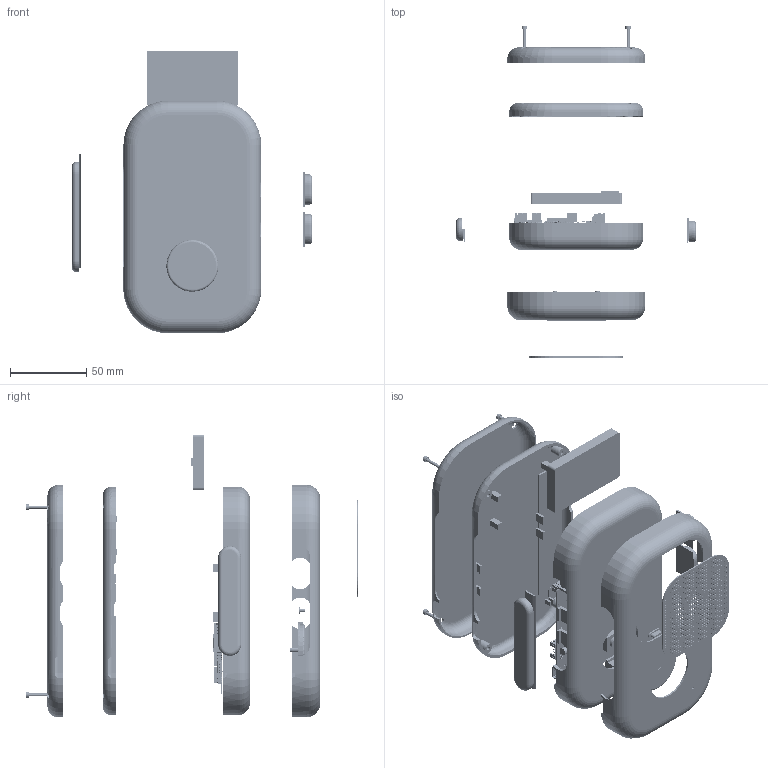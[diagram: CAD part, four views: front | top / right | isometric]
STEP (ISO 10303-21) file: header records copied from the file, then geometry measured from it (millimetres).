
FILE_DESCRIPTION(('Open CASCADE Model'),'2;1');
FILE_NAME('ASTRA 21.2 R5 rounded hand-feel 28.8mm - presentation exploded offsets, not an insertion simulation','2026-09-04T19:56:06',('Author'),( 'Open CASCADE'),'Open CASCADE STEP processor 7.8','build123d', 'Unknown');
FILE_SCHEMA(('AUTOMOTIVE_DESIGN { 1 0 10303 214 1 1 1 1 }'));
Length unit declared in the file: millimetre
Products named in the file (1852): ASTRA 21.2 R5 rounded hand-feel 28.8mm - presentation exploded 
offsets, not an insertion simulation; front_chassis_PA12; rear_service_cover_PA12; front_grip_skin_finegrain_cream; SOLID; rear_grip_skin_finegrain_cream_INSCRIBED; grille_W_perforated_0_8mm_charcoal; ptt_cap_orange_72mm; vol_plus_cap_sage; vol_minus_cap_sage; play_action_cap_cream; status_lens_clear_diffusing; carrier_front_switch_fr4_handwired; carrier_left_ptt_fr4_handwired; carrier_right_vol_fr4_handwired; carrier_led_fr4_handwired; mic_clamp_bracket_PA12; ptt_pad_silicone_1; ptt_pad_silicone_2; vol_plus_pad_silicone; vol_minus_pad_silicone; play_pad_silicone; pcb_clamp_pad_silicone_1_0to0_8_1; pcb_clamp_pad_silicone_1_0to0_8_2; pcb_clamp_pad_silicone_1_0to0_8_3; pcb_clamp_pad_silicone_1_0to0_8_4; battery_foam_pad_PORON_3_0to2_5_1; battery_foam_pad_PORON_3_0to2_5_2; battery_foam_pad_PORON_3_0to2_5_3; battery_tray_foam_0_8to0_5; mic_foam_strip_3_0to2_8_1; mic_foam_strip_3_0to2_8_2; mic_duct_foam_gasket_2_3to1_9; speaker_rim_foam_gasket_1_3to1_0; lte_backing_adhesive_0_2; grille_perimeter_PSA_0_10; rear_grip_PSA_panel_0_10; front_grip_PSA_patch_0_10_1; front_grip_PSA_patch_0_10_2; front_grip_PSA_patch_0_10_3 ...
Assembly tree (1957 placements, depth 6):
  ASTRA 21.2 R5 rounded hand-feel 28.8mm - presentation exploded 
offsets, not an insertion simulation
    front_chassis_PA12
    rear_service_cover_PA12
    front_grip_skin_finegrain_cream
      SOLID
    rear_grip_skin_finegrain_cream_INSCRIBED
      SOLID
    grille_W_perforated_0_8mm_charcoal
      SOLID
    ptt_cap_orange_72mm
    vol_plus_cap_sage
    vol_minus_cap_sage
    play_action_cap_cream
    status_lens_clear_diffusing
    carrier_front_switch_fr4_handwired
      SOLID
    carrier_left_ptt_fr4_handwired
      SOLID
    carrier_right_vol_fr4_handwired
      SOLID
    carrier_led_fr4_handwired
      SOLID
    mic_clamp_bracket_PA12
      SOLID
    ptt_pad_silicone_1
      SOLID
    ptt_pad_silicone_2
      SOLID
    vol_plus_pad_silicone
      SOLID
    vol_minus_pad_silicone
      SOLID
    play_pad_silicone
      SOLID
    pcb_clamp_pad_silicone_1_0to0_8_1
      SOLID
    pcb_clamp_pad_silicone_1_0to0_8_2
      SOLID
    pcb_clamp_pad_silicone_1_0to0_8_3
      SOLID
    pcb_clamp_pad_silicone_1_0to0_8_4
      SOLID
    battery_foam_pad_PORON_3_0to2_5_1
      SOLID
    battery_foam_pad_PORON_3_0to2_5_2
      SOLID
    battery_foam_pad_PORON_3_0to2_5_3
      SOLID
    battery_tray_foam_0_8to0_5
      SOLID
    mic_foam_strip_3_0to2_8_1
      SOLID
    mic_foam_strip_3_0to2_8_2
      SOLID
    mic_duct_foam_gasket_2_3to1_9
      SOLID
    speaker_rim_foam_gasket_1_3to1_0
      SOLID
    lte_backing_adhesive_0_2
      SOLID
Bounding box: 157.2 x 217.5 x 185.2 mm (x, y, z)
Volume: 159969.7 mm3; surface area: 211063.2 mm2
Topology: 429 solids, 1796 shells, 29618 faces, 71503 edges, 44389 vertices
Faces by surface type: plane 21596, bspline 3844, cylinder 3524, extrusion 419, cone 114, torus 93, sphere 28
Full cylindrical faces by diameter (mm): 0.3 x61, 0.375 x1, 0.5 x1, 0.6 x4, 0.75 x4, 0.813 x5, 0.9 x460, 1 x16, 1.1 x85, 1.2 x2, 1.25 x73, 1.4 x111, 1.5 x7, 1.623 x56, 2 x14, 2.074 x56, 2.4 x10, 2.9 x14, 3 x2, 3.03 x14, 3.2 x28, 3.8 x14, 4.2 x4, 4.6 x4, 5 x4, 6 x1, 6.4 x10, 8 x1, 34.6 x1, 36 x1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
Entity records: 1852802 total; most frequent: CARTESIAN_POINT 630436, DIRECTION 204046, VECTOR 139604, LINE 139185, ORIENTED_EDGE 118603, PCURVE 118603, DEFINITIONAL_REPRESENTATION 118603, EDGE_CURVE 63896
